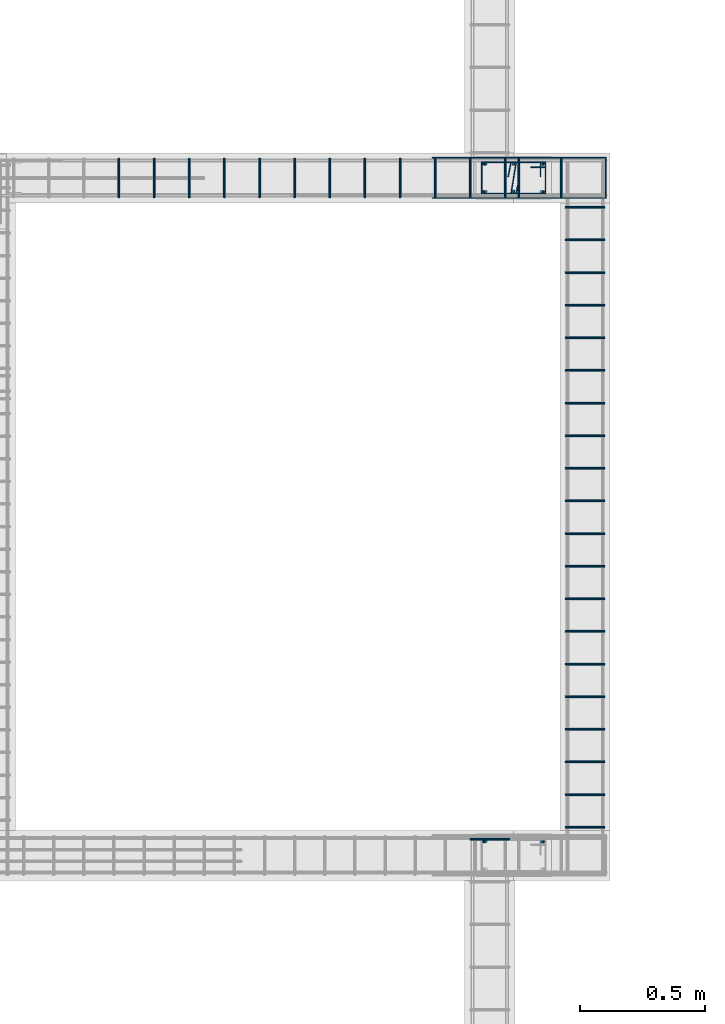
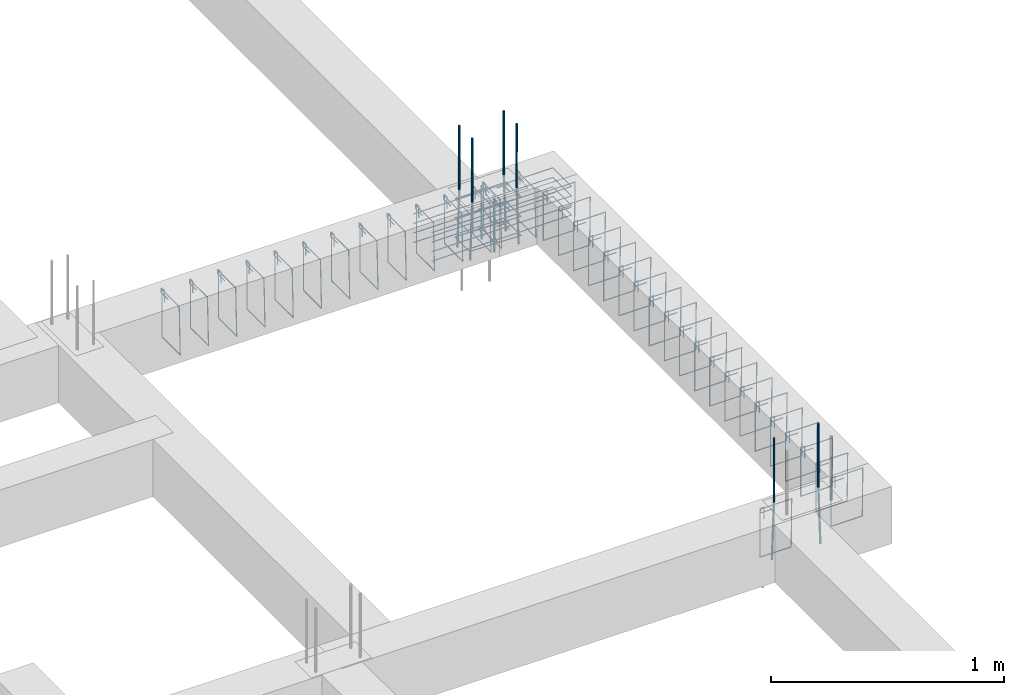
# One storey, part 141 of 150: 53 reinforcing bars.
"""IFC4 building model written with IfcOpenShell, lengths in centimetres."""

from ifc_helpers import new_model, entity, si_unit, derived_unit, frame, origin_with_axes, place, context, project, spatial, source, transform, mapped, element, save


model = new_model("IFC4")

# Units and contexts
model_context = context("Model", 3, precision=1e-05, world=origin_with_axes(), identifier="Body")
ifc_project = project(units=[si_unit("LENGTHUNIT", "METRE", prefix="CENTI"), si_unit("VOLUMEUNIT", "CUBIC_METRE"), si_unit("AREAUNIT", "SQUARE_METRE"), si_unit("POWERUNIT", "WATT"), si_unit("LUMINOUSFLUXUNIT", "LUMEN"), si_unit("ELECTRICCURRENTUNIT", "AMPERE"), si_unit("PRESSUREUNIT", "PASCAL", prefix="KILO"), si_unit("MASSUNIT", "GRAM", prefix="KILO"), si_unit("PLANEANGLEUNIT", "RADIAN"), derived_unit("VOLUMETRICFLOWRATEUNIT", [(si_unit("LENGTHUNIT", "METRE"), 3), (si_unit("TIMEUNIT", "SECOND"), -1)])], contexts=[model_context])

# Site, building, storey
site_placement = place(None, frame((-4000.0, 0.0, 0.0), z_axis=(0.0, 0.0, 1.0), x_axis=(1.0, 0.0, 0.0)))
site = spatial("IfcSite", under=ifc_project, at=site_placement, Name="PADRÃO")
building_placement = place(site_placement, frame((0.0, 0.0, -14.0)))
building = spatial("IfcBuilding", under=site, at=building_placement, Name="CRECHE PRÉ-ESCOLA TIPO 2")
placement = place(building_placement, origin_with_axes())
storey_placement = place(placement, frame((0.0, 0.0, 30.0), z_axis=(0.0, 0.0, 1.0), x_axis=(1.0, 0.0, 0.0)))
storey = spatial("IfcBuildingStorey", under=building, at=storey_placement, Name="VIGA BALDRAME", CompositionType="ELEMENT", Elevation=16.0)

# Reinforcing bars
shared_shape_1 = source(origin_with_axes(), model_context, "Body", "AdvancedSweptSolid", [
    entity("IfcSweptDiskSolid", entity("IfcCompositeCurve", [entity("IfcCompositeCurveSegment", "CONTINUOUS", True, entity("IfcPolyline", [entity("IfcCartesianPoint", [4.25, 21.75, 0.0]), entity("IfcCartesianPoint", [4.25, 27.75, 0.0])])), entity("IfcCompositeCurveSegment", "CONTINUOUS", True, entity("IfcPolyline", [entity("IfcCartesianPoint", [4.25, 27.75, 0.0]), entity("IfcCartesianPoint", [2.25, 27.75, 0.0])])), entity("IfcCompositeCurveSegment", "CONTINUOUS", True, entity("IfcPolyline", [entity("IfcCartesianPoint", [2.25, 27.75, 0.0]), entity("IfcCartesianPoint", [2.25, 2.25, 0.0])])), entity("IfcCompositeCurveSegment", "CONTINUOUS", True, entity("IfcPolyline", [entity("IfcCartesianPoint", [2.25, 2.25, 0.0]), entity("IfcCartesianPoint", [14.75, 2.25, 0.0])])), entity("IfcCompositeCurveSegment", "CONTINUOUS", True, entity("IfcPolyline", [entity("IfcCartesianPoint", [14.75, 2.25, 0.0]), entity("IfcCartesianPoint", [14.75, 27.75, -0.5])])), entity("IfcCompositeCurveSegment", "CONTINUOUS", True, entity("IfcPolyline", [entity("IfcCartesianPoint", [14.75, 27.75, -0.5]), entity("IfcCartesianPoint", [2.25, 27.75, -0.5])])), entity("IfcCompositeCurveSegment", "CONTINUOUS", True, entity("IfcPolyline", [entity("IfcCartesianPoint", [2.25, 27.75, -0.5]), entity("IfcCartesianPoint", [2.25, 25.75, -0.5])])), entity("IfcCompositeCurveSegment", "CONTINUOUS", True, entity("IfcPolyline", [entity("IfcCartesianPoint", [2.25, 25.75, -0.5]), entity("IfcCartesianPoint", [8.25, 25.75, -0.5])]))], False), 0.25),
])
for number, where, z_axis, x_axis, name in (
    (1, (3357.5, 3478.52, -15.0), (0.0, 0.0, 1.0), (0.0, -1.0, 0.0), "P45 - Estribo"),
    (2, (3357.5, 3478.52, -25.0), (0.0, 0.0, 1.0), (0.0, -1.0, 0.0), "P45 - Estribo"),
    (3, (3357.5, 3478.52, -5.0), (0.0, 0.0, 1.0), (0.0, -1.0, 0.0), "P45 - Estribo"),
):
    element("IfcReinforcingBar", number, at=place(storey_placement, frame(where, z_axis=z_axis, x_axis=x_axis)), inside=storey, Name=name, BarLength=0.0, CrossSectionArea=1.9634954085e-05, NominalDiameter=0.5, PredefinedType="MAIN", context=model_context, shape_type="MappedRepresentation", body=[
        mapped(shared_shape_1, transform((0.0, 0.0, 0.0), scale=1.0)),
    ])
shared_shape_2 = source(origin_with_axes(), model_context, "Body", "AdvancedSweptSolid", [
    entity("IfcSweptDiskSolid", entity("IfcCompositeCurve", [entity("IfcCompositeCurveSegment", "CONTINUOUS", True, entity("IfcPolyline", [entity("IfcCartesianPoint", [8.81925062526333, 17.1913887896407, 0.0]), entity("IfcCartesianPoint", [14.75, 16.0, 0.0])])), entity("IfcCompositeCurveSegment", "CONTINUOUS", True, entity("IfcPolyline", [entity("IfcCartesianPoint", [14.75, 16.0, 0.0]), entity("IfcCartesianPoint", [14.75, 14.0, 0.0])])), entity("IfcCompositeCurveSegment", "CONTINUOUS", True, entity("IfcPolyline", [entity("IfcCartesianPoint", [14.75, 14.0, 0.0]), entity("IfcCartesianPoint", [2.25, 16.0, 0.0])])), entity("IfcCompositeCurveSegment", "CONTINUOUS", True, entity("IfcPolyline", [entity("IfcCartesianPoint", [2.25, 16.0, 0.0]), entity("IfcCartesianPoint", [2.25, 14.0, 0.0])])), entity("IfcCompositeCurveSegment", "CONTINUOUS", True, entity("IfcPolyline", [entity("IfcCartesianPoint", [2.25, 14.0, 0.0]), entity("IfcCartesianPoint", [8.1807493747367, 12.8086112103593, 0.0])]))], False), 0.25),
])
for number, where, z_axis, x_axis, name in (
    (4, (3357.5, 3478.52, -14.5), (0.0, 0.0, 1.0), (0.0, -1.0, 0.0), "P45 - Grampo"),
    (5, (3357.5, 3478.52, -24.5), (0.0, 0.0, 1.0), (0.0, -1.0, 0.0), "P45 - Grampo"),
    (6, (3357.5, 3478.52, -4.5), (0.0, 0.0, 1.0), (0.0, -1.0, 0.0), "P45 - Grampo"),
):
    element("IfcReinforcingBar", number, at=place(storey_placement, frame(where, z_axis=z_axis, x_axis=x_axis)), inside=storey, Name=name, BarLength=0.0, CrossSectionArea=1.9634954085e-05, NominalDiameter=0.5, PredefinedType="MAIN", context=model_context, shape_type="MappedRepresentation", body=[
        mapped(shared_shape_2, transform((0.0, 0.0, 0.0), scale=1.0)),
    ])
shared_shape_3 = source(origin_with_axes(), model_context, "Body", "AdvancedSweptSolid", [
    entity("IfcSweptDiskSolid", entity("IfcCompositeCurve", [entity("IfcCompositeCurveSegment", "CONTINUOUS", True, entity("IfcPolyline", [entity("IfcCartesianPoint", [2.0, -6.0, 0.0]), entity("IfcCartesianPoint", [2.0, 0.0, 0.0])])), entity("IfcCompositeCurveSegment", "CONTINUOUS", True, entity("IfcPolyline", [entity("IfcCartesianPoint", [2.0, 0.0, 0.0]), entity("IfcCartesianPoint", [0.0, 0.0, 0.0])])), entity("IfcCompositeCurveSegment", "CONTINUOUS", True, entity("IfcPolyline", [entity("IfcCartesianPoint", [0.0, 0.0, 0.0]), entity("IfcCartesianPoint", [0.0, -25.5, 0.0])])), entity("IfcCompositeCurveSegment", "CONTINUOUS", True, entity("IfcPolyline", [entity("IfcCartesianPoint", [0.0, -25.5, 0.0]), entity("IfcCartesianPoint", [15.5, -25.5, 0.0])])), entity("IfcCompositeCurveSegment", "CONTINUOUS", True, entity("IfcPolyline", [entity("IfcCartesianPoint", [15.5, -25.5, 0.0]), entity("IfcCartesianPoint", [15.5, 0.0, 0.5])])), entity("IfcCompositeCurveSegment", "CONTINUOUS", True, entity("IfcPolyline", [entity("IfcCartesianPoint", [15.5, 0.0, 0.5]), entity("IfcCartesianPoint", [0.0, 0.0, 0.5])])), entity("IfcCompositeCurveSegment", "CONTINUOUS", True, entity("IfcPolyline", [entity("IfcCartesianPoint", [0.0, 0.0, 0.5]), entity("IfcCartesianPoint", [0.0, -2.0, 0.5])])), entity("IfcCompositeCurveSegment", "CONTINUOUS", True, entity("IfcPolyline", [entity("IfcCartesianPoint", [0.0, -2.0, 0.5]), entity("IfcCartesianPoint", [6.0, -2.0, 0.5])]))], False), 0.25),
])
for number, where, z_axis, x_axis, name in (
    (7, (3393.23, 3458.51, -2.25), (0.0, -1.0, 0.0), (1.0, 0.0, 0.0), "V228 - Estribo"),
    (8, (3393.23, 3315.51, -2.25), (0.0, -1.0, 0.0), (1.0, 0.0, 0.0), "V228 - Estribo"),
    (9, (3393.23, 3445.51, -2.25), (0.0, -1.0, 0.0), (1.0, 0.0, 0.0), "V228 - Estribo"),
    (10, (3393.23, 3432.51, -2.25), (0.0, -1.0, 0.0), (1.0, 0.0, 0.0), "V228 - Estribo"),
    (11, (3393.23, 3419.51, -2.25), (0.0, -1.0, 0.0), (1.0, 0.0, 0.0), "V228 - Estribo"),
    (12, (3393.23, 3406.51, -2.25), (0.0, -1.0, 0.0), (1.0, 0.0, 0.0), "V228 - Estribo"),
    (13, (3393.23, 3393.51, -2.25), (0.0, -1.0, 0.0), (1.0, 0.0, 0.0), "V228 - Estribo"),
    (14, (3393.23, 3380.51, -2.25), (0.0, -1.0, 0.0), (1.0, 0.0, 0.0), "V228 - Estribo"),
    (15, (3393.23, 3367.51, -2.25), (0.0, -1.0, 0.0), (1.0, 0.0, 0.0), "V228 - Estribo"),
    (16, (3393.23, 3354.51, -2.25), (0.0, -1.0, 0.0), (1.0, 0.0, 0.0), "V228 - Estribo"),
    (17, (3393.23, 3341.51, -2.25), (0.0, -1.0, 0.0), (1.0, 0.0, 0.0), "V228 - Estribo"),
    (18, (3393.23, 3328.51, -2.25), (0.0, -1.0, 0.0), (1.0, 0.0, 0.0), "V228 - Estribo"),
    (19, (3393.23, 3302.51, -2.25), (0.0, -1.0, 0.0), (1.0, 0.0, 0.0), "V228 - Estribo"),
    (20, (3393.23, 3289.51, -2.25), (0.0, -1.0, 0.0), (1.0, 0.0, 0.0), "V228 - Estribo"),
    (21, (3393.23, 3276.51, -2.25), (0.0, -1.0, 0.0), (1.0, 0.0, 0.0), "V228 - Estribo"),
    (22, (3393.23, 3263.51, -2.25), (0.0, -1.0, 0.0), (1.0, 0.0, 0.0), "V228 - Estribo"),
    (23, (3393.23, 3250.51, -2.25), (0.0, -1.0, 0.0), (1.0, 0.0, 0.0), "V228 - Estribo"),
    (24, (3393.23, 3237.51, -2.25), (0.0, -1.0, 0.0), (1.0, 0.0, 0.0), "V228 - Estribo"),
    (25, (3393.23, 3224.51, -2.25), (0.0, -1.0, 0.0), (1.0, 0.0, 0.0), "V228 - Estribo"),
    (26, (3393.23, 3211.51, -2.25), (0.0, -1.0, 0.0), (1.0, 0.0, 0.0), "V228 - Estribo"),
):
    element("IfcReinforcingBar", number, at=place(storey_placement, frame(where, z_axis=z_axis, x_axis=x_axis)), inside=storey, Name=name, BarLength=0.0, CrossSectionArea=1.9634954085e-05, NominalDiameter=0.5, PredefinedType="MAIN", context=model_context, shape_type="MappedRepresentation", body=[
        mapped(shared_shape_3, transform((0.0, 0.0, 0.0), scale=1.0)),
    ])
shared_shape_4 = source(origin_with_axes(), model_context, "Body", "AdvancedSweptSolid", [
    entity("IfcSweptDiskSolid", entity("IfcCompositeCurve", [entity("IfcCompositeCurveSegment", "CONTINUOUS", True, entity("IfcPolyline", [entity("IfcCartesianPoint", [2.0, -6.0, 0.0]), entity("IfcCartesianPoint", [2.0, 0.0, 0.0])])), entity("IfcCompositeCurveSegment", "CONTINUOUS", True, entity("IfcPolyline", [entity("IfcCartesianPoint", [2.0, 0.0, 0.0]), entity("IfcCartesianPoint", [0.0, 0.0, 0.0])])), entity("IfcCompositeCurveSegment", "CONTINUOUS", True, entity("IfcPolyline", [entity("IfcCartesianPoint", [0.0, 0.0, 0.0]), entity("IfcCartesianPoint", [0.0, -25.5, 0.0])])), entity("IfcCompositeCurveSegment", "CONTINUOUS", True, entity("IfcPolyline", [entity("IfcCartesianPoint", [0.0, -25.5, 0.0]), entity("IfcCartesianPoint", [15.5, -25.5, 0.0])])), entity("IfcCompositeCurveSegment", "CONTINUOUS", True, entity("IfcPolyline", [entity("IfcCartesianPoint", [15.5, -25.5, 0.0]), entity("IfcCartesianPoint", [15.5, 0.0, 0.5])])), entity("IfcCompositeCurveSegment", "CONTINUOUS", True, entity("IfcPolyline", [entity("IfcCartesianPoint", [15.5, 0.0, 0.5]), entity("IfcCartesianPoint", [0.0, 0.0, 0.5])])), entity("IfcCompositeCurveSegment", "CONTINUOUS", True, entity("IfcPolyline", [entity("IfcCartesianPoint", [0.0, 0.0, 0.5]), entity("IfcCartesianPoint", [0.0, -2.0, 0.5])])), entity("IfcCompositeCurveSegment", "CONTINUOUS", True, entity("IfcPolyline", [entity("IfcCartesianPoint", [0.0, -2.0, 0.5]), entity("IfcCartesianPoint", [6.0, -2.0, 0.5])]))], False), 0.25),
])
for number, where, z_axis, x_axis, name in (
    (27, (3369.5, 3477.76, -2.25), (-1.0, 0.0, 0.0), (0.0, -1.0, 0.0), "V111 - Estribo"),
    (28, (3355.5, 3477.76, -2.25), (-1.0, 0.0, 0.0), (0.0, -1.0, 0.0), "V111 - Estribo"),
    (29, (3341.5, 3477.76, -2.25), (-1.0, 0.0, 0.0), (0.0, -1.0, 0.0), "V111 - Estribo"),
    (30, (3327.5, 3477.76, -2.25), (-1.0, 0.0, 0.0), (0.0, -1.0, 0.0), "V111 - Estribo"),
    (31, (3313.5, 3477.76, -2.25), (-1.0, 0.0, 0.0), (0.0, -1.0, 0.0), "V111 - Estribo"),
    (32, (3299.5, 3477.76, -2.25), (-1.0, 0.0, 0.0), (0.0, -1.0, 0.0), "V111 - Estribo"),
    (33, (3285.5, 3477.76, -2.25), (-1.0, 0.0, 0.0), (0.0, -1.0, 0.0), "V111 - Estribo"),
    (34, (3271.5, 3477.76, -2.25), (-1.0, 0.0, 0.0), (0.0, -1.0, 0.0), "V111 - Estribo"),
    (35, (3257.5, 3477.76, -2.25), (-1.0, 0.0, 0.0), (0.0, -1.0, 0.0), "V111 - Estribo"),
    (36, (3243.5, 3477.76, -2.25), (-1.0, 0.0, 0.0), (0.0, -1.0, 0.0), "V111 - Estribo"),
    (37, (3229.5, 3477.76, -2.25), (-1.0, 0.0, 0.0), (0.0, -1.0, 0.0), "V111 - Estribo"),
    (38, (3215.5, 3477.76, -2.25), (-1.0, 0.0, 0.0), (0.0, -1.0, 0.0), "V111 - Estribo"),
):
    element("IfcReinforcingBar", number, at=place(storey_placement, frame(where, z_axis=z_axis, x_axis=x_axis)), inside=storey, Name=name, BarLength=0.0, CrossSectionArea=1.9634954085e-05, NominalDiameter=0.5, PredefinedType="MAIN", context=model_context, shape_type="MappedRepresentation", body=[
        mapped(shared_shape_4, transform((0.0, 0.0, 0.0), scale=1.0)),
    ])
shared_shape_5 = source(origin_with_axes(), model_context, "Body", "AdvancedSweptSolid", [
    entity("IfcSweptDiskSolid", entity("IfcCompositeCurve", [entity("IfcCompositeCurveSegment", "CONTINUOUS", True, entity("IfcPolyline", [entity("IfcCartesianPoint", [2.0, -6.0, 0.0]), entity("IfcCartesianPoint", [2.0, 0.0, 0.0])])), entity("IfcCompositeCurveSegment", "CONTINUOUS", True, entity("IfcPolyline", [entity("IfcCartesianPoint", [2.0, 0.0, 0.0]), entity("IfcCartesianPoint", [0.0, 0.0, 0.0])])), entity("IfcCompositeCurveSegment", "CONTINUOUS", True, entity("IfcPolyline", [entity("IfcCartesianPoint", [0.0, 0.0, 0.0]), entity("IfcCartesianPoint", [0.0, -25.5, 0.0])])), entity("IfcCompositeCurveSegment", "CONTINUOUS", True, entity("IfcPolyline", [entity("IfcCartesianPoint", [0.0, -25.5, 0.0]), entity("IfcCartesianPoint", [15.5, -25.5, 0.0])])), entity("IfcCompositeCurveSegment", "CONTINUOUS", True, entity("IfcPolyline", [entity("IfcCartesianPoint", [15.5, -25.5, 0.0]), entity("IfcCartesianPoint", [15.5, 0.0, 0.5])])), entity("IfcCompositeCurveSegment", "CONTINUOUS", True, entity("IfcPolyline", [entity("IfcCartesianPoint", [15.5, 0.0, 0.5]), entity("IfcCartesianPoint", [0.0, 0.0, 0.5])])), entity("IfcCompositeCurveSegment", "CONTINUOUS", True, entity("IfcPolyline", [entity("IfcCartesianPoint", [0.0, 0.0, 0.5]), entity("IfcCartesianPoint", [0.0, -2.0, 0.5])])), entity("IfcCompositeCurveSegment", "CONTINUOUS", True, entity("IfcPolyline", [entity("IfcCartesianPoint", [0.0, -2.0, 0.5]), entity("IfcCartesianPoint", [6.0, -2.0, 0.5])]))], False), 0.25),
])
for number, where, z_axis, x_axis, name in (
    (39, (3391.74, 3477.76, -2.25), (-1.0, 0.0, 0.0), (0.0, -1.0, 0.0), "V111 - Estribo"),
    (40, (3374.74, 3477.76, -2.25), (-1.0, 0.0, 0.0), (0.0, -1.0, 0.0), "V111 - Estribo"),
):
    element("IfcReinforcingBar", number, at=place(storey_placement, frame(where, z_axis=z_axis, x_axis=x_axis)), inside=storey, Name=name, BarLength=0.0, CrossSectionArea=1.9634954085e-05, NominalDiameter=0.5, PredefinedType="MAIN", context=model_context, shape_type="MappedRepresentation", body=[
        mapped(shared_shape_5, transform((0.0, 0.0, 0.0), scale=1.0)),
    ])
shared_shape_6 = source(origin_with_axes(), model_context, "Body", "AdvancedSweptSolid", [
    entity("IfcSweptDiskSolid", entity("IfcCompositeCurve", [entity("IfcCompositeCurveSegment", "CONTINUOUS", True, entity("IfcPolyline", [entity("IfcCartesianPoint", [0.0, 0.0, 0.0]), entity("IfcCartesianPoint", [69.1813828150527, 0.0, 0.0])])), entity("IfcCompositeCurveSegment", "CONTINUOUS", True, entity("IfcPolyline", [entity("IfcCartesianPoint", [69.1813828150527, 0.0, 0.0]), entity("IfcCartesianPoint", [69.1813828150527, 16.0, 0.0])])), entity("IfcCompositeCurveSegment", "CONTINUOUS", True, entity("IfcPolyline", [entity("IfcCartesianPoint", [69.1813828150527, 16.0, 0.0]), entity("IfcCartesianPoint", [0.0, 16.0, 0.0])]))], False), 0.25),
])
for number, where, z_axis, x_axis, name in (
    (41, (3340.04861718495, 3462.01, -22.1), (0.0, 0.0, 1.0), (1.0, 0.0, 0.0), "V111 - Grampo"),
    (42, (3340.04861718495, 3462.01, -12.1), (0.0, 0.0, 1.0), (1.0, 0.0, 0.0), "V111 - Grampo"),
    (43, (3340.04861718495, 3462.01, -17.1), (0.0, 0.0, 1.0), (1.0, 0.0, 0.0), "V111 - Grampo"),
    (44, (3340.04861718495, 3462.01, -7.1), (0.0, 0.0, 1.0), (1.0, 0.0, 0.0), "V111 - Grampo"),
):
    element("IfcReinforcingBar", number, at=place(storey_placement, frame(where, z_axis=z_axis, x_axis=x_axis)), inside=storey, Name=name, BarLength=0.0, CrossSectionArea=1.9634954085e-05, NominalDiameter=0.5, PredefinedType="MAIN", context=model_context, shape_type="MappedRepresentation", body=[
        mapped(shared_shape_6, transform((0.0, 0.0, 0.0), scale=1.0)),
    ])
shared_shape_7 = source(origin_with_axes(), model_context, "Body", "AdvancedSweptSolid", [
    entity("IfcSweptDiskSolid", entity("IfcCompositeCurve", [entity("IfcCompositeCurveSegment", "CONTINUOUS", True, entity("IfcPolyline", [entity("IfcCartesianPoint", [2.0, -6.0, 0.0]), entity("IfcCartesianPoint", [2.0, 0.0, 0.0])])), entity("IfcCompositeCurveSegment", "CONTINUOUS", True, entity("IfcPolyline", [entity("IfcCartesianPoint", [2.0, 0.0, 0.0]), entity("IfcCartesianPoint", [0.0, 0.0, 0.0])])), entity("IfcCompositeCurveSegment", "CONTINUOUS", True, entity("IfcPolyline", [entity("IfcCartesianPoint", [0.0, 0.0, 0.0]), entity("IfcCartesianPoint", [0.0, -25.5, 0.0])])), entity("IfcCompositeCurveSegment", "CONTINUOUS", True, entity("IfcPolyline", [entity("IfcCartesianPoint", [0.0, -25.5, 0.0]), entity("IfcCartesianPoint", [15.5, -25.5, 0.0])])), entity("IfcCompositeCurveSegment", "CONTINUOUS", True, entity("IfcPolyline", [entity("IfcCartesianPoint", [15.5, -25.5, 0.0]), entity("IfcCartesianPoint", [15.5, 0.0, 0.5])])), entity("IfcCompositeCurveSegment", "CONTINUOUS", True, entity("IfcPolyline", [entity("IfcCartesianPoint", [15.5, 0.0, 0.5]), entity("IfcCartesianPoint", [0.0, 0.0, 0.5])])), entity("IfcCompositeCurveSegment", "CONTINUOUS", True, entity("IfcPolyline", [entity("IfcCartesianPoint", [0.0, 0.0, 0.5]), entity("IfcCartesianPoint", [0.0, -2.0, 0.5])])), entity("IfcCompositeCurveSegment", "CONTINUOUS", True, entity("IfcPolyline", [entity("IfcCartesianPoint", [0.0, -2.0, 0.5]), entity("IfcCartesianPoint", [6.0, -2.0, 0.5])]))], False), 0.25),
])
reinforcing_bar_1_placement = place(storey_placement, frame((3355.25, 3206.77, -2.25), z_axis=(0.0, -1.0, 0.0), x_axis=(1.0, 0.0, 0.0)))
element("IfcReinforcingBar", 45, at=reinforcing_bar_1_placement, inside=storey, Name="V227 - Estribo", BarLength=0.0, CrossSectionArea=1.9634954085e-05, NominalDiameter=0.5, PredefinedType="MAIN", context=model_context, shape_type="MappedRepresentation", body=[
    mapped(shared_shape_7, transform((0.0, 0.0, 0.0), scale=1.0)),
])
for number, where, z_axis, x_axis, name in (
    (46, (3372.5, 3475.52, -2.0), (0.0, 0.0, 1.0), (1.0, 0.0, 0.0), "P45 - Longitudinal"),
    (47, (3372.5, 3464.52, -2.0), (0.0, 0.0, 1.0), (1.0, 0.0, 0.0), "P45 - Longitudinal"),
):
    element("IfcReinforcingBar", number, at=place(storey_placement, frame(where, z_axis=z_axis, x_axis=x_axis)), inside=storey, Name=name, BarLength=0.0, CrossSectionArea=7.853981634e-05, NominalDiameter=1.0, PredefinedType="MAIN", context=model_context, shape_type="AdvancedSweptSolid", body=[
        entity("IfcSweptDiskSolid", entity("IfcCompositeCurve", [entity("IfcCompositeCurveSegment", "CONTINUOUS", True, entity("IfcPolyline", [entity("IfcCartesianPoint", [0.0, 0.0, -28.0]), entity("IfcCartesianPoint", [0.0, 0.0, 0.0])]))], False), 0.5),
    ])
for number, where, z_axis, x_axis, name in (
    (48, (3383.99986122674, 3475.52, 33.3573001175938), (0.0, 0.0, 1.0), (1.0, 0.0, 0.0), "P45 - Longitudinal"),
    (49, (3383.99986122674, 3464.52, 33.3573001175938), (0.0, 0.0, 1.0), (1.0, 0.0, 0.0), "P45 - Longitudinal"),
):
    element("IfcReinforcingBar", number, at=place(storey_placement, frame(where, z_axis=z_axis, x_axis=x_axis)), inside=storey, Name=name, BarLength=0.0, CrossSectionArea=7.853981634e-05, NominalDiameter=1.0, PredefinedType="MAIN", context=model_context, shape_type="AdvancedSweptSolid", body=[
        entity("IfcSweptDiskSolid", entity("IfcCompositeCurve", [entity("IfcCompositeCurveSegment", "CONTINUOUS", True, entity("IfcPolyline", [entity("IfcCartesianPoint", [0.500138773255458, 0.0, -63.3573001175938]), entity("IfcCartesianPoint", [-0.499861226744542, 0.0, -33.3573001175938])])), entity("IfcCompositeCurveSegment", "CONTINUOUS", True, entity("IfcPolyline", [entity("IfcCartesianPoint", [-0.499861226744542, 0.0, -33.3573001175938]), entity("IfcCartesianPoint", [-0.499861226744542, 0.0, 0.0])]))], False), 0.5),
    ])
for number, where, z_axis, x_axis, name in (
    (50, (3361.00013877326, 3464.52, 33.3573001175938), (0.0, 0.0, 1.0), (1.0, 0.0, 0.0), "P45 - Longitudinal"),
    (51, (3361.00013877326, 3475.52, 33.3573001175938), (0.0, 0.0, 1.0), (1.0, 0.0, 0.0), "P45 - Longitudinal"),
):
    element("IfcReinforcingBar", number, at=place(storey_placement, frame(where, z_axis=z_axis, x_axis=x_axis)), inside=storey, Name=name, BarLength=0.0, CrossSectionArea=7.853981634e-05, NominalDiameter=1.0, PredefinedType="MAIN", context=model_context, shape_type="AdvancedSweptSolid", body=[
        entity("IfcSweptDiskSolid", entity("IfcCompositeCurve", [entity("IfcCompositeCurveSegment", "CONTINUOUS", True, entity("IfcPolyline", [entity("IfcCartesianPoint", [-0.500138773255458, 0.0, -63.3573001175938]), entity("IfcCartesianPoint", [0.499861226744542, 0.0, -33.3573001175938])])), entity("IfcCompositeCurveSegment", "CONTINUOUS", True, entity("IfcPolyline", [entity("IfcCartesianPoint", [0.499861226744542, 0.0, -33.3573001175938]), entity("IfcCartesianPoint", [0.499861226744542, 0.0, 0.0])]))], False), 0.5),
    ])
reinforcing_bar_2_placement = place(storey_placement, frame((3383.99986122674, 3205.52, 33.3573001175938), z_axis=(0.0, 0.0, 1.0), x_axis=(1.0, 0.0, 0.0)))
element("IfcReinforcingBar", 52, at=reinforcing_bar_2_placement, inside=storey, Name="P56 - Longitudinal", BarLength=0.0, CrossSectionArea=7.853981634e-05, NominalDiameter=1.0, PredefinedType="MAIN", context=model_context, shape_type="AdvancedSweptSolid", body=[
    entity("IfcSweptDiskSolid", entity("IfcCompositeCurve", [entity("IfcCompositeCurveSegment", "CONTINUOUS", True, entity("IfcPolyline", [entity("IfcCartesianPoint", [0.500138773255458, 0.0, -63.3573001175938]), entity("IfcCartesianPoint", [-0.499861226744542, 0.0, -33.3573001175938])])), entity("IfcCompositeCurveSegment", "CONTINUOUS", True, entity("IfcPolyline", [entity("IfcCartesianPoint", [-0.499861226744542, 0.0, -33.3573001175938]), entity("IfcCartesianPoint", [-0.499861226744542, 0.0, 0.0])]))], False), 0.5),
])
reinforcing_bar_3_placement = place(storey_placement, frame((3361.00013877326, 3205.52, 33.3573001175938), z_axis=(0.0, 0.0, 1.0), x_axis=(1.0, 0.0, 0.0)))
element("IfcReinforcingBar", 53, at=reinforcing_bar_3_placement, inside=storey, Name="P56 - Longitudinal", BarLength=0.0, CrossSectionArea=7.853981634e-05, NominalDiameter=1.0, PredefinedType="MAIN", context=model_context, shape_type="AdvancedSweptSolid", body=[
    entity("IfcSweptDiskSolid", entity("IfcCompositeCurve", [entity("IfcCompositeCurveSegment", "CONTINUOUS", True, entity("IfcPolyline", [entity("IfcCartesianPoint", [-0.500138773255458, 0.0, -63.3573001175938]), entity("IfcCartesianPoint", [0.499861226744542, 0.0, -33.3573001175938])])), entity("IfcCompositeCurveSegment", "CONTINUOUS", True, entity("IfcPolyline", [entity("IfcCartesianPoint", [0.499861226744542, 0.0, -33.3573001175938]), entity("IfcCartesianPoint", [0.499861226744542, 0.0, 0.0])]))], False), 0.5),
])

save(model, "model.ifc")
